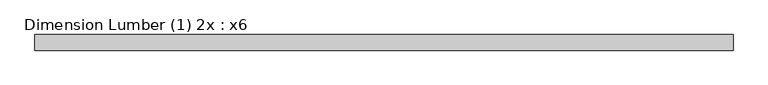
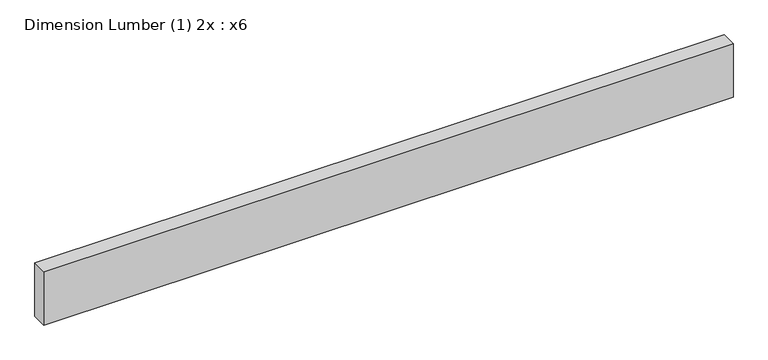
"""IFC4 building model written with IfcOpenShell, lengths in millimetres: beam geometry, Dimension Lumber (1) 2x : x6."""

import ifcopenshell
import ifcopenshell.guid

model = None  # the IFC model being written
_history = None  # IfcOwnerHistory: only IFC2X3 demands one
_inside = {}  # id of a spatial element -> (the spatial element, [elements in it])
_under = {}  # id of a project, library or spatial element -> (it, [spatial elements below it])
_declared = {}  # id of a project -> (the project, [libraries it declares])
_typed = {}  # id of a type object -> (the type object, [elements of that type])
_made_of = {}  # id of a material, layer set ... -> (it, [elements and type objects made of it])


def new_model(schema):
    """Start an empty IFC model of exactly this schema.

    Asked for "IFC4X3", IfcOpenShell would pick the latest addendum, in which some entities
    have other attributes; the version numbers below select the first issue.
    IFC2X3 requires an IfcOwnerHistory on every rooted entity: one is made here for all.
    """
    global model, _history
    if schema == "IFC4X3":
        model = ifcopenshell.file(schema_version=(4, 3, 0, 0))
    else:
        model = ifcopenshell.file(schema=schema)
    _inside.clear()
    _under.clear()
    _declared.clear()
    _typed.clear()
    _made_of.clear()
    _history = None
    if model.schema == "IFC2X3":
        org = make("IfcOrganization", Name="unknown")
        user = make(
            "IfcPersonAndOrganization",
            ThePerson=make("IfcPerson", FamilyName="unknown"),
            TheOrganization=org,
        )
        app = make(
            "IfcApplication",
            ApplicationDeveloper=org,
            Version="unknown",
            ApplicationFullName="unknown",
            ApplicationIdentifier="unknown",
        )
        _history = make(
            "IfcOwnerHistory",
            OwningUser=user,
            OwningApplication=app,
            ChangeAction="ADDED",
            CreationDate=0,
        )
    return model


def make(cls, **values):
    """One entity of the class cls with the attributes given. An attribute that is None is left unset."""
    return model.create_entity(
        cls, **{name: value for name, value in values.items() if value is not None}
    )


def rooted(cls, **values):
    """An entity with a GlobalId (a new one), such as an element, a storey or a relation."""
    return make(cls, GlobalId=ifcopenshell.guid.new(), OwnerHistory=_history, **values)


def si_unit(unit_type, name, prefix=None):
    """IfcSIUnit, for example si_unit("LENGTHUNIT", "METRE", prefix="MILLI")."""
    return make("IfcSIUnit", UnitType=unit_type, Prefix=prefix, Name=name)


def assignment(units):
    """IfcUnitAssignment: the units of a project."""
    return None if units is None else make("IfcUnitAssignment", Units=units)


def point(xyz):
    """IfcCartesianPoint."""
    return None if xyz is None else make("IfcCartesianPoint", Coordinates=xyz)


def direction(xyz):
    """IfcDirection."""
    return None if xyz is None else make("IfcDirection", DirectionRatios=xyz)


def frame(location, z_axis=None, x_axis=None):
    """IfcAxis2Placement3D, a coordinate frame: its origin and axes. An axis left out is left unset."""
    return make(
        "IfcAxis2Placement3D",
        Location=point(location),
        Axis=direction(z_axis),
        RefDirection=direction(x_axis),
    )


def origin():
    """The frame at (0, 0, 0) with its axes left unset."""
    return frame((0.0, 0.0, 0.0))


def place(relative_to, where):
    """IfcLocalPlacement: puts the frame where relative to a parent placement (None: the world)."""
    return make(
        "IfcLocalPlacement", PlacementRelTo=relative_to, RelativePlacement=where
    )


def context(
    kind, dimensions, precision=None, world=None, true_north=None, identifier=None
):
    """IfcGeometricRepresentationContext, for example the 3D "Model" context."""
    return make(
        "IfcGeometricRepresentationContext",
        ContextIdentifier=identifier,
        ContextType=kind,
        CoordinateSpaceDimension=dimensions,
        Precision=precision,
        WorldCoordinateSystem=world,
        TrueNorth=true_north,
    )


def project(units=None, contexts=None):
    """IfcProject with its units and contexts."""
    return rooted(
        "IfcProject",
        Name="project",
        RepresentationContexts=contexts,
        UnitsInContext=assignment(units),
    )


def spatial(cls, under=None, at=None, **own):
    """A site, building, storey or space (cls), placed at a placement, below another one or the project."""
    s = rooted(cls, ObjectPlacement=at, **own)
    if under is not None:
        _under.setdefault(under.id(), (under, []))[1].append(s)
    return s


def polyline(points):
    """IfcPolyline through the points."""
    return make("IfcPolyline", Points=[point(p) for p in points])


def outline(outer, holes=None, kind="AREA"):
    """IfcArbitraryClosedProfileDef: a profile drawn as a closed curve; with holes, ...WithVoids."""
    if holes is None:
        return make("IfcArbitraryClosedProfileDef", ProfileType=kind, OuterCurve=outer)
    return make(
        "IfcArbitraryProfileDefWithVoids",
        ProfileType=kind,
        OuterCurve=outer,
        InnerCurves=holes,
    )


def extrude(swept, where, along, depth):
    """IfcExtrudedAreaSolid: the profile swept, set in the frame where, extruded along a direction by depth."""
    return make(
        "IfcExtrudedAreaSolid",
        SweptArea=swept,
        Position=where,
        ExtrudedDirection=direction(along),
        Depth=depth,
    )


def shape(context_of_items, identifier, shape_type, items):
    """IfcShapeRepresentation: the items that make up one representation, for example the "Body"."""
    return make(
        "IfcShapeRepresentation",
        ContextOfItems=context_of_items,
        RepresentationIdentifier=identifier,
        RepresentationType=shape_type,
        Items=items,
    )


def source(mapping_origin, context_of_items, identifier, shape_type, items):
    """IfcRepresentationMap: a shape defined once, which mapped items show again and again."""
    return make(
        "IfcRepresentationMap",
        MappingOrigin=mapping_origin,
        MappedRepresentation=shape(context_of_items, identifier, shape_type, items),
    )


def transform(
    local_origin,
    x_axis=None,
    y_axis=None,
    z_axis=None,
    scale=None,
    scale2=None,
    scale3=None,
    uniform=True,
):
    """IfcCartesianTransformationOperator3D, or its non-uniform kind. x_axis, y_axis, z_axis: its Axis1, 2, 3."""
    if uniform:
        return make(
            "IfcCartesianTransformationOperator3D",
            Axis1=direction(x_axis),
            Axis2=direction(y_axis),
            LocalOrigin=point(local_origin),
            Scale=scale,
            Axis3=direction(z_axis),
        )
    return make(
        "IfcCartesianTransformationOperator3DnonUniform",
        Axis1=direction(x_axis),
        Axis2=direction(y_axis),
        LocalOrigin=point(local_origin),
        Scale=scale,
        Axis3=direction(z_axis),
        Scale2=scale2,
        Scale3=scale3,
    )


def mapped(mapping_source, mapping_target):
    """IfcMappedItem: shows the shape of a source again, moved by a transform."""
    return make(
        "IfcMappedItem", MappingSource=mapping_source, MappingTarget=mapping_target
    )


def made_of(thing, what):
    """Note that an element or type object is made of a material, layer set ...; save() writes the relation."""
    if what is not None:
        _made_of.setdefault(what.id(), (what, []))[1].append(thing)
    return thing


def element(
    cls,
    number,
    at=None,
    inside=None,
    cuts=None,
    type_object=None,
    material=None,
    context=None,
    identifier="Body",
    shape_type=None,
    held_by="IfcProductDefinitionShape",
    body=None,
    shapes=None,
    **own,
):
    """One element of the class cls, such as IfcWall. Its Tag is "e" and its number.

    at: its placement. inside: the storey or other place that contains it. cuts: it is an
    opening in that element (IfcRelVoidsElement). A single representation is given by context,
    identifier, shape_type and body (its items); several are given by shapes. held_by: the class
    of the entity that holds the representations. save() writes the other relations.
    """
    e = rooted(cls, Tag="e%d" % number, ObjectPlacement=at, **own)
    if body is not None:
        shapes = [shape(context, identifier, shape_type, body)]
    if shapes is not None:
        e.Representation = make(held_by, Representations=shapes)
    if inside is not None:
        _inside.setdefault(inside.id(), (inside, []))[1].append(e)
    if cuts is not None:
        rooted(
            "IfcRelVoidsElement", RelatingBuildingElement=cuts, RelatedOpeningElement=e
        )
    if type_object is not None:
        _typed.setdefault(type_object.id(), (type_object, []))[1].append(e)
    return made_of(e, material)


def aggregate(whole, parts):
    """IfcRelAggregates: a whole, such as a stair, and the parts it consists of."""
    return rooted("IfcRelAggregates", RelatingObject=whole, RelatedObjects=parts)


def save(model, path):
    """Write the relations noted so far, then the file.

    IfcRelAggregates (storeys below a building ...), IfcRelContainedInSpatialStructure (elements
    in a storey), IfcRelDefinesByType, IfcRelAssociatesMaterial and IfcRelDeclares: one each for
    every whole, place, type object, material and project.
    """
    for whole, parts in _under.values():
        aggregate(whole, parts)
    for where, things in _inside.values():
        rooted(
            "IfcRelContainedInSpatialStructure",
            RelatedElements=things,
            RelatingStructure=where,
        )
    for kind, things in _typed.values():
        rooted("IfcRelDefinesByType", RelatedObjects=things, RelatingType=kind)
    for what, things in _made_of.values():
        rooted("IfcRelAssociatesMaterial", RelatedObjects=things, RelatingMaterial=what)
    for by, libraries in _declared.values():
        rooted("IfcRelDeclares", RelatingContext=by, RelatedDefinitions=libraries)
    model.write(path)


def dimension_lumber_1_2x_x6_f9579439(model_context):
    return source(origin(), model_context, "Body", "SweptSolid", [
        extrude(outline(polyline([(850.9, 19.05), (850.9, -19.05), (-850.9, -19.05), (-850.9, 19.05), (850.9, 19.05)])), frame((0.0, 0.0, -69.85), z_axis=(0.0, 0.0, 1.0), x_axis=(1.0, 0.0, 0.0)), (0.0, 0.0, 1.0), 139.7),
    ])


if __name__ == "__main__":
    model = new_model("IFC4")
    model_context = context("Model", 3, world=origin())
    ifc_project = project(units=[si_unit("LENGTHUNIT", "METRE", prefix="MILLI")], contexts=[model_context])
    site = spatial("IfcSite", under=ifc_project)
    building = spatial("IfcBuilding", under=site)
    placement = place(None, origin())
    dimension_lumber_1_2x_x6_shape = dimension_lumber_1_2x_x6_f9579439(model_context)
    element("IfcBeam", 1, ObjectType="Dimension Lumber (1) 2x : x6", at=placement, inside=building, context=model_context, shape_type="MappedRepresentation", body=[
        mapped(dimension_lumber_1_2x_x6_shape, transform((0.0, 0.0, 0.0), x_axis=(1.0, 0.0, 0.0), y_axis=(0.0, 1.0, 0.0), z_axis=(0.0, 0.0, 1.0))),
    ])
    save(model, "model.ifc")
